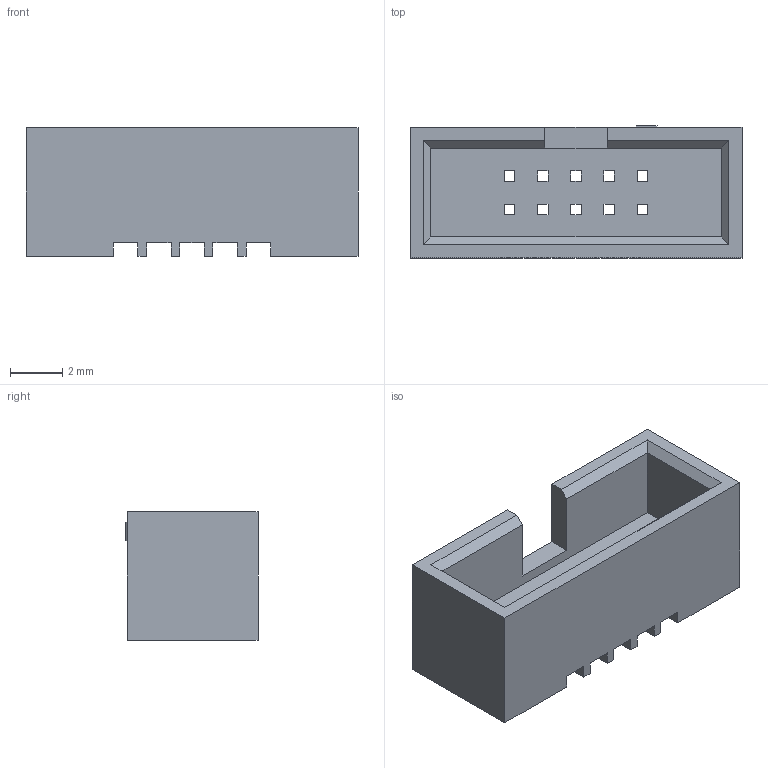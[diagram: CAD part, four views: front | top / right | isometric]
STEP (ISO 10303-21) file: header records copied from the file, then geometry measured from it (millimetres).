
FILE_DESCRIPTION(/* description */ ('STEP AP242 Edition 2','CAx-IF Rec.Pracs.---Representation and Presentation of Product Manufacturing Information (PMI)---4.0---2014-10-13','CAx-IF Rec.Pracs.---3D Tessellated Geometry---0.4---2014-09-14','2;1','CAx-IF Rec.Pracs.---User Defined Attributes---1.5---2016-08-15'),/* implementation_level */ '2;1');
FILE_NAME(/* name */ 'v2_assembly - 801-2195-10',/* time_stamp */ '2026-05-19T16:26:03Z',/* author */ (''),/* organization */ (''),/* preprocessor_version */ 'ST-DEVELOPER v20',/* originating_system */ 'ONSHAPE BY PTC INC, 1.215',/* authorisation */ ' ');
FILE_SCHEMA (('AP242_MANAGED_MODEL_BASED_3D_ENGINEERING_MIM_LF { 1 0 10303 442 3 1 4 }'));
Length unit declared in the file: metre
Products named in the file (1): 801-2195-10
Bounding box: 12.7 x 5.05 x 4.9 mm (x, y, z)
Volume: 173.9 mm3; surface area: 414.7 mm2
Topology: 1 solids, 1 shells, 123 faces, 316 edges, 196 vertices
Faces by surface type: plane 123
Entity records: 3660 total; most frequent: CARTESIAN_POINT 636, ORIENTED_EDGE 632, DIRECTION 564, EDGE_CURVE 316, LINE 316, VECTOR 316, VERTEX_POINT 196, EDGE_LOOP 144
